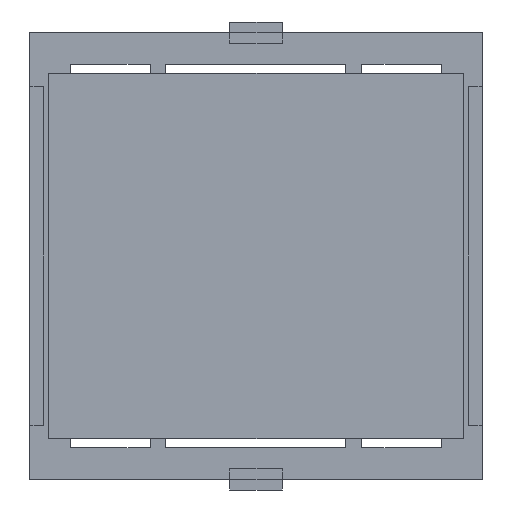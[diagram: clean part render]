
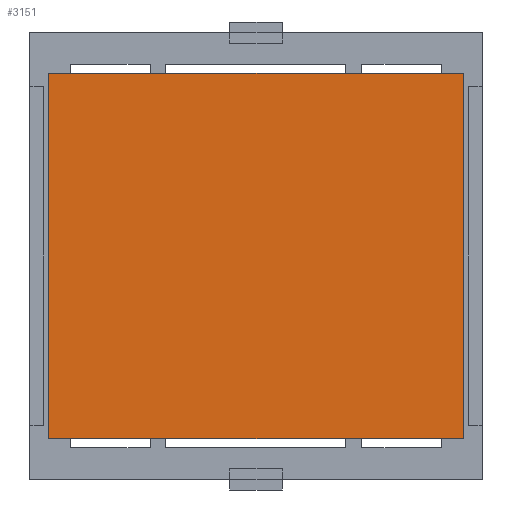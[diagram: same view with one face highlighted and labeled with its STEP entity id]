
A CAD part, front view. The second image highlights one B-rep face of the part: STEP entity #3151.
In plain terms, the highlighted planar face has unit normal (0, -1, 0).
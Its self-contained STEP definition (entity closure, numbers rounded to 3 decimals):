
#120 = DIRECTION ( 'NONE',  ( 1., 0., 0. ) ) ;
#316 = VECTOR ( 'NONE', #120, 1000. ) ;
#512 = VERTEX_POINT ( 'NONE', #6286 ) ;
#654 = ORIENTED_EDGE ( 'NONE', *, *, #5777, .F. ) ;
#1289 = EDGE_LOOP ( 'NONE', ( #7189, #654, #5473, #3594 ) ) ;
#1372 = VECTOR ( 'NONE', #6310, 1000. ) ;
#1382 = VERTEX_POINT ( 'NONE', #2885 ) ;
#1659 = CARTESIAN_POINT ( 'NONE',  ( -19.558, -0.127, -17.272 ) ) ;
#1920 = AXIS2_PLACEMENT_3D ( 'NONE', #2205, #7256, #4417 ) ;
#2205 = CARTESIAN_POINT ( 'NONE',  ( -19.558, -0.127, 17.272 ) ) ;
#2333 = EDGE_CURVE ( 'NONE', #5819, #512, #2371, .T. ) ;
#2342 = LINE ( 'NONE', #3632, #2793 ) ;
#2371 = LINE ( 'NONE', #6826, #316 ) ;
#2416 = DIRECTION ( 'NONE',  ( -1., 0., 0. ) ) ;
#2660 = DIRECTION ( 'NONE',  ( 0., 0., -1. ) ) ;
#2793 = VECTOR ( 'NONE', #2416, 1000. ) ;
#2880 = EDGE_CURVE ( 'NONE', #512, #1382, #3313, .T. ) ;
#2885 = CARTESIAN_POINT ( 'NONE',  ( 19.558, -0.127, -17.272 ) ) ;
#3151 = ADVANCED_FACE ( 'NONE', ( #5057 ), #5550, .F. ) ;
#3313 = LINE ( 'NONE', #4423, #4861 ) ;
#3494 = CARTESIAN_POINT ( 'NONE',  ( -19.558, -0.127, -17.272 ) ) ;
#3594 = ORIENTED_EDGE ( 'NONE', *, *, #2333, .F. ) ;
#3632 = CARTESIAN_POINT ( 'NONE',  ( -19.558, -0.127, -17.272 ) ) ;
#3721 = VERTEX_POINT ( 'NONE', #1659 ) ;
#4019 = EDGE_CURVE ( 'NONE', #3721, #5819, #5255, .T. ) ;
#4417 = DIRECTION ( 'NONE',  ( 0., 0., 1. ) ) ;
#4423 = CARTESIAN_POINT ( 'NONE',  ( 19.558, -0.127, -17.272 ) ) ;
#4861 = VECTOR ( 'NONE', #2660, 1000. ) ;
#5057 = FACE_OUTER_BOUND ( 'NONE', #1289, .T. ) ;
#5255 = LINE ( 'NONE', #3494, #1372 ) ;
#5313 = CARTESIAN_POINT ( 'NONE',  ( -19.558, -0.127, 17.272 ) ) ;
#5473 = ORIENTED_EDGE ( 'NONE', *, *, #2880, .F. ) ;
#5550 = PLANE ( 'NONE',  #1920 ) ;
#5777 = EDGE_CURVE ( 'NONE', #1382, #3721, #2342, .T. ) ;
#5819 = VERTEX_POINT ( 'NONE', #5313 ) ;
#6286 = CARTESIAN_POINT ( 'NONE',  ( 19.558, -0.127, 17.272 ) ) ;
#6310 = DIRECTION ( 'NONE',  ( 0., 0., 1. ) ) ;
#6826 = CARTESIAN_POINT ( 'NONE',  ( -19.558, -0.127, 17.272 ) ) ;
#7189 = ORIENTED_EDGE ( 'NONE', *, *, #4019, .F. ) ;
#7256 = DIRECTION ( 'NONE',  ( 0., 1., 0. ) ) ;
